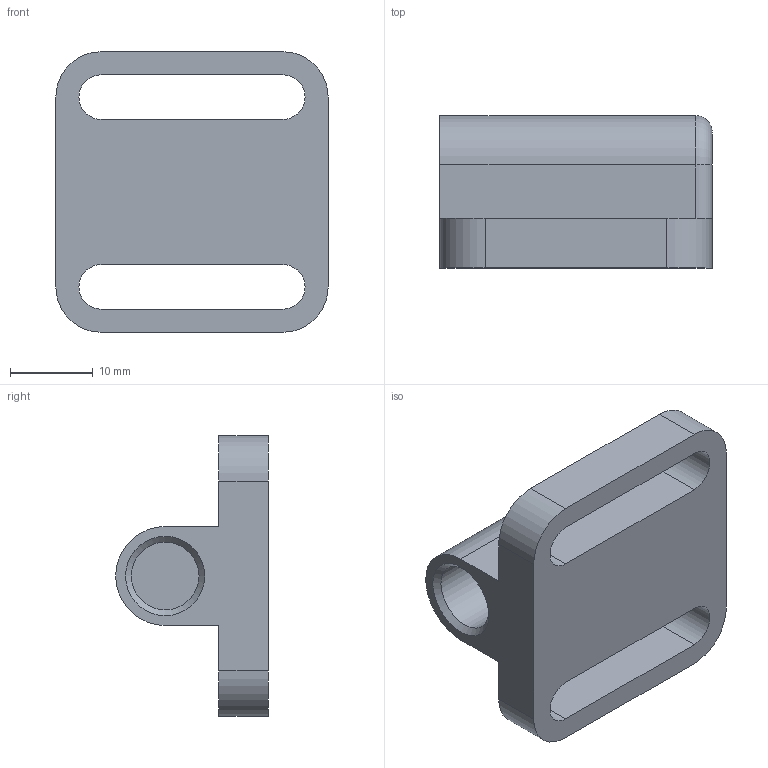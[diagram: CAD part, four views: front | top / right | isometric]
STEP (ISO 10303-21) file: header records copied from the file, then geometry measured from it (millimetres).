
FILE_DESCRIPTION( ( 'STEP AP203' ), '1' );
FILE_NAME( 'C:/Temp/Ganter_Step_05_03_2020/data/3_1/gn_417_1/Stainless Steel-Locator GN 417.1-8-NI-GS.stp', '2020-03-12T09:12:10', ( 'License CC BY-ND 4.0' ), ( 'CADENAS' ), ' ', 'PARTsolutions', ' ' );
FILE_SCHEMA( ( 'CONFIG_CONTROL_DESIGN' ) );
Length unit declared in the file: millimetre
Products named in the file (1): _Stainless Steel-Locator GN 417.1-8-NI-GS
Bounding box: 33 x 18.5 x 34 mm (x, y, z)
Volume: 7698.8 mm3; surface area: 4764.7 mm2
Topology: 1 solids, 1 shells, 28 faces, 72 edges, 47 vertices
Faces by surface type: plane 14, cylinder 12, cone 1, torus 1
Full cylindrical faces by diameter (mm): 8.2 x1
Entity records: 900 total; most frequent: DIRECTION 154, CARTESIAN_POINT 146, ORIENTED_EDGE 140, EDGE_CURVE 70, AXIS2_PLACEMENT_3D 55, VERTEX_POINT 47, LINE 44, VECTOR 44
